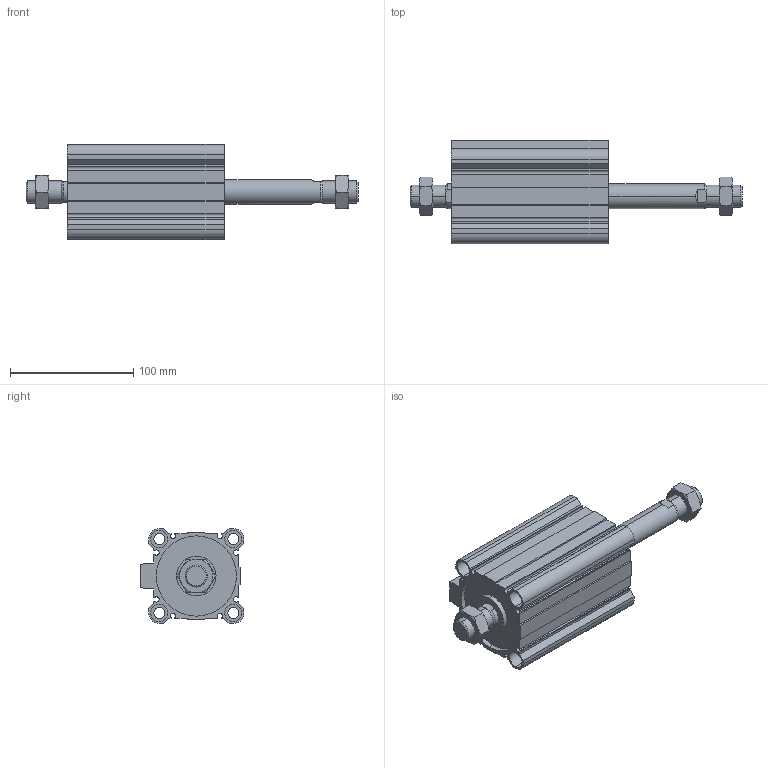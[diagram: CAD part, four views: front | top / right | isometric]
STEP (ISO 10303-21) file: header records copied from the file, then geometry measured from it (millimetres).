
FILE_DESCRIPTION (( 'STEP AP203' ), '1' );
FILE_NAME ('CCMB63-75M-P.STEP', '2020-08-10T11:51:56', ( '' ), ( '' ), 'SwSTEP 2.0', 'SolidWorks 2019', '' );
FILE_SCHEMA (( 'CONFIG_CONTROL_DESIGN' ));
Length unit declared in the file: millimetre
Products named in the file (1): CCMB63-75M-P
Bounding box: 269 x 84 x 77 mm (x, y, z)
Volume: 440081.3 mm3; surface area: 138296.6 mm2
Topology: 4 solids, 4 shells, 232 faces, 570 edges, 364 vertices
Faces by surface type: plane 110, cylinder 78, cone 44
Entity records: 7569 total; most frequent: CARTESIAN_POINT 1939, DIRECTION 1176, ORIENTED_EDGE 1140, EDGE_CURVE 570, AXIS2_PLACEMENT_3D 437, VERTEX_POINT 364, LINE 302, VECTOR 302
